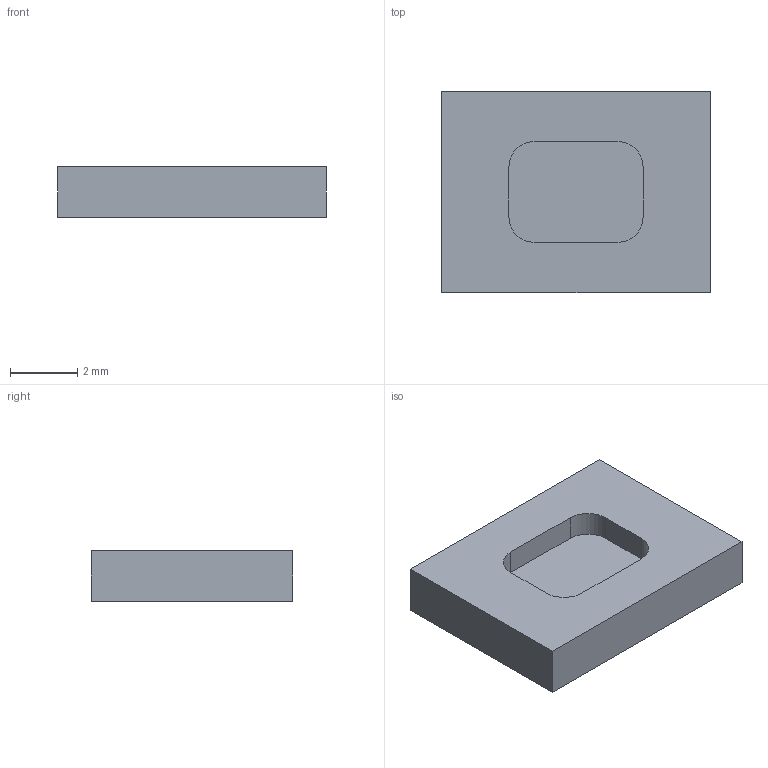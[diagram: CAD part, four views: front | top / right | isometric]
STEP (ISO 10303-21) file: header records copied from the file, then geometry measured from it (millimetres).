
FILE_DESCRIPTION(('FreeCAD Model'),'2;1');
FILE_NAME('Open CASCADE Shape Model','2026-11-02T20:21:27',('FreeCAD'),( 'FreeCAD'),'Open CASCADE STEP processor 7.8','FreeCAD','Unknown');
FILE_SCHEMA(('AUTOMOTIVE_DESIGN { 1 0 10303 214 1 1 1 1 }'));
Length unit declared in the file: millimetre
Products named in the file (1): Open CASCADE STEP translator 7.8 1
Bounding box: 8 x 6 x 1.5 mm (x, y, z)
Volume: 63.4 mm3; surface area: 147.5 mm2
Topology: 1 solids, 1 shells, 15 faces, 36 edges, 24 vertices
Faces by surface type: plane 11, cylinder 4
Entity records: 448 total; most frequent: CARTESIAN_POINT 76, DIRECTION 76, ORIENTED_EDGE 72, EDGE_CURVE 36, LINE 28, VECTOR 28, AXIS2_PLACEMENT_3D 24, VERTEX_POINT 24
